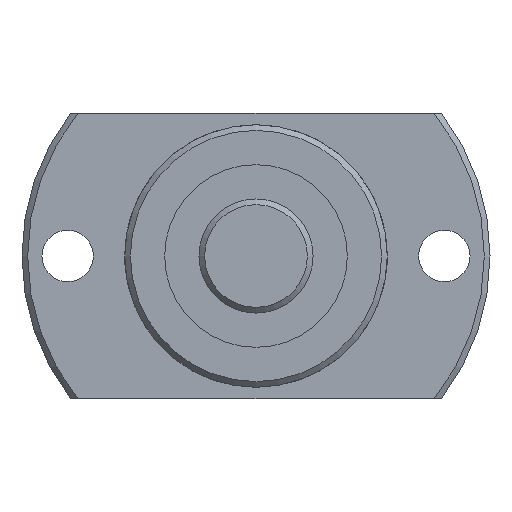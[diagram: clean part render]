
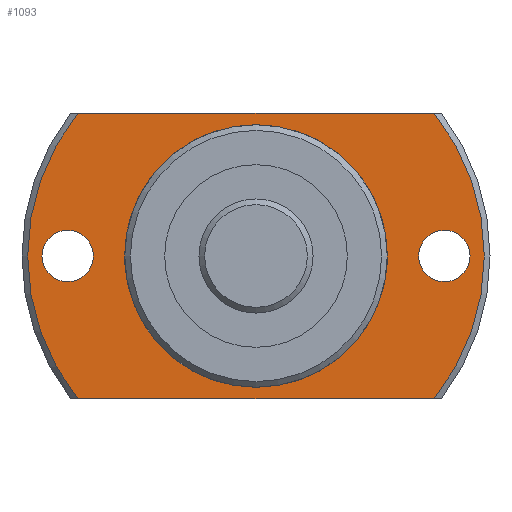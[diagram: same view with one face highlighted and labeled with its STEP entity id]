
A CAD part, left-side view. The second image highlights one B-rep face of the part: STEP entity #1093.
In plain terms, the highlighted planar face has unit normal (-1, 0, 0).
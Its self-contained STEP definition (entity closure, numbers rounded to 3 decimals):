
#110=CIRCLE('',#1212,11.3);
#113=CIRCLE('',#1216,20.);
#119=CIRCLE('',#1227,2.25);
#120=CIRCLE('',#1228,2.25);
#121=CIRCLE('',#1229,20.);
#249=ORIENTED_EDGE('',*,*,#509,.T.);
#250=ORIENTED_EDGE('',*,*,#510,.T.);
#251=ORIENTED_EDGE('',*,*,#498,.F.);
#252=ORIENTED_EDGE('',*,*,#511,.T.);
#253=ORIENTED_EDGE('',*,*,#512,.F.);
#254=ORIENTED_EDGE('',*,*,#513,.T.);
#255=ORIENTED_EDGE('',*,*,#492,.T.);
#492=EDGE_CURVE('',#631,#631,#110,.T.);
#498=EDGE_CURVE('',#636,#637,#113,.T.);
#509=EDGE_CURVE('',#646,#646,#119,.T.);
#510=EDGE_CURVE('',#647,#647,#120,.T.);
#511=EDGE_CURVE('',#636,#648,#721,.T.);
#512=EDGE_CURVE('',#649,#648,#121,.T.);
#513=EDGE_CURVE('',#649,#637,#722,.T.);
#631=VERTEX_POINT('',#1776);
#636=VERTEX_POINT('',#1790);
#637=VERTEX_POINT('',#1792);
#646=VERTEX_POINT('',#1826);
#647=VERTEX_POINT('',#1828);
#648=VERTEX_POINT('',#1830);
#649=VERTEX_POINT('',#1832);
#721=LINE('',#1829,#781);
#722=LINE('',#1833,#782);
#781=VECTOR('',#1464,1000.);
#782=VECTOR('',#1467,1000.);
#861=EDGE_LOOP('',(#249));
#862=EDGE_LOOP('',(#250));
#863=EDGE_LOOP('',(#251,#252,#253,#254));
#864=EDGE_LOOP('',(#255));
#967=FACE_BOUND('',#861,.T.);
#968=FACE_BOUND('',#862,.T.);
#969=FACE_BOUND('',#863,.T.);
#970=FACE_BOUND('',#864,.T.);
#1041=PLANE('',#1226);
#1093=ADVANCED_FACE('',(#967,#968,#969,#970),#1041,.F.);
#1212=AXIS2_PLACEMENT_3D('',#1775,#1426,#1427);
#1216=AXIS2_PLACEMENT_3D('',#1791,#1436,#1437);
#1226=AXIS2_PLACEMENT_3D('',#1824,#1458,#1459);
#1227=AXIS2_PLACEMENT_3D('',#1825,#1460,#1461);
#1228=AXIS2_PLACEMENT_3D('',#1827,#1462,#1463);
#1229=AXIS2_PLACEMENT_3D('',#1831,#1465,#1466);
#1426=DIRECTION('',(1.,0.,0.));
#1427=DIRECTION('',(0.,0.,-1.));
#1436=DIRECTION('',(1.,0.,0.));
#1437=DIRECTION('',(0.,0.,-1.));
#1458=DIRECTION('',(1.,0.,0.));
#1459=DIRECTION('',(0.,0.,-1.));
#1460=DIRECTION('',(1.,0.,0.));
#1461=DIRECTION('',(0.,0.,-1.));
#1462=DIRECTION('',(1.,0.,0.));
#1463=DIRECTION('',(0.,0.,-1.));
#1464=DIRECTION('',(0.,-1.,0.));
#1465=DIRECTION('',(1.,0.,0.));
#1466=DIRECTION('',(0.,0.,-1.));
#1467=DIRECTION('',(0.,1.,0.));
#1775=CARTESIAN_POINT('',(19.,0.,0.));
#1776=CARTESIAN_POINT('',(19.,0.,-11.3));
#1790=CARTESIAN_POINT('',(19.,15.612,-12.5));
#1791=CARTESIAN_POINT('',(19.,0.,0.));
#1792=CARTESIAN_POINT('',(19.,15.612,12.5));
#1824=CARTESIAN_POINT('',(19.,11.3,0.));
#1825=CARTESIAN_POINT('',(19.,-16.5,0.));
#1826=CARTESIAN_POINT('',(19.,-16.5,-2.25));
#1827=CARTESIAN_POINT('',(19.,16.5,0.));
#1828=CARTESIAN_POINT('',(19.,16.5,-2.25));
#1829=CARTESIAN_POINT('',(19.,11.3,-12.5));
#1830=CARTESIAN_POINT('',(19.,-15.612,-12.5));
#1831=CARTESIAN_POINT('',(19.,0.,0.));
#1832=CARTESIAN_POINT('',(19.,-15.612,12.5));
#1833=CARTESIAN_POINT('',(19.,11.3,12.5));
